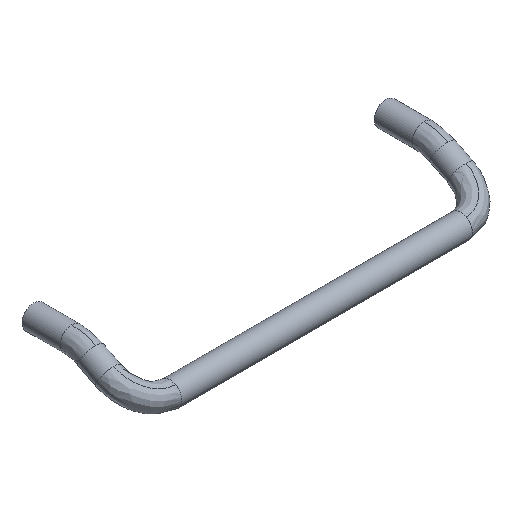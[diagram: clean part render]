
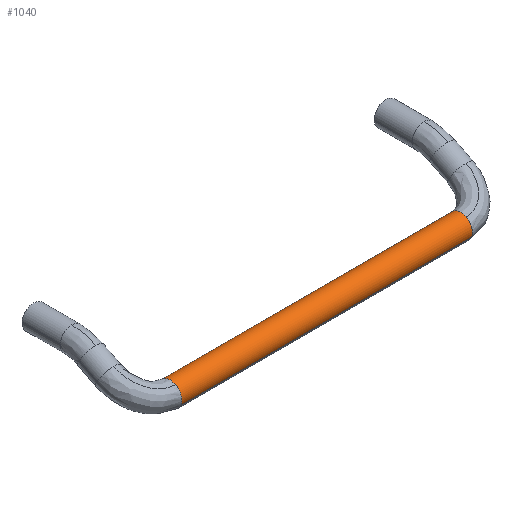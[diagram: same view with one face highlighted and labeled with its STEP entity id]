
A CAD part, isometric view. The second image highlights one B-rep face of the part: STEP entity #1040.
In plain terms, the highlighted free-form (B-spline) face has degree [2, 1] with [5, 2] control points.
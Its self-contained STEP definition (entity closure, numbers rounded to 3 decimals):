
#752=CARTESIAN_POINT('',(49.5,-1.815,3.565));
#753=VERTEX_POINT('',#752);
#765=CARTESIAN_POINT('',(49.5,-3.696,-1.529));
#766=VERTEX_POINT('',#765);
#767=CARTESIAN_POINT('',(49.5,-1.815,3.565));
#768=CARTESIAN_POINT('',(49.5,-2.748,3.089));
#769=CARTESIAN_POINT('',(49.5,-3.48,2.233));
#770=CARTESIAN_POINT('',(49.5,-4.096,0.341));
#771=CARTESIAN_POINT('',(49.5,-4.053,-0.658));
#772=CARTESIAN_POINT('',(49.5,-3.696,-1.529));
#773=B_SPLINE_CURVE_WITH_KNOTS('',3,(#767,#768,#769,#770,#771,#772),.UNSPECIFIED.,.F.,.U.,(4,2,4),(0.5,0.625,0.737),.UNSPECIFIED.);
#774=EDGE_CURVE('',#753,#766,#773,.T.);
#894=CARTESIAN_POINT('',(49.5,3.696,1.529));
#895=VERTEX_POINT('',#894);
#905=CARTESIAN_POINT('',(49.5,3.696,1.529));
#906=CARTESIAN_POINT('',(49.5,3.656,1.626));
#907=CARTESIAN_POINT('',(49.5,3.612,1.722));
#908=CARTESIAN_POINT('',(49.5,3.09,2.748));
#909=CARTESIAN_POINT('',(49.5,2.233,3.48));
#910=CARTESIAN_POINT('',(49.5,0.241,4.128));
#911=CARTESIAN_POINT('',(49.5,-0.882,4.04));
#912=CARTESIAN_POINT('',(49.5,-1.815,3.565));
#913=B_SPLINE_CURVE_WITH_KNOTS('',3,(#905,#906,#907,#908,#909,#910,#911,#912),.UNSPECIFIED.,.F.,.U.,(4,2,2,4),(0.237,0.25,0.375,0.5),.UNSPECIFIED.);
#914=EDGE_CURVE('',#895,#753,#913,.T.);
#939=CARTESIAN_POINT('',(-49.5,3.696,1.53));
#940=VERTEX_POINT('',#939);
#954=CARTESIAN_POINT('',(49.5,3.696,1.529));
#955=CARTESIAN_POINT('',(-49.5,3.696,1.53));
#956=QUASI_UNIFORM_CURVE('',1,(#954,#955),.UNSPECIFIED.,.F.,.U.);
#957=EDGE_CURVE('',#895,#940,#956,.T.);
#961=CARTESIAN_POINT('',(-49.5,-3.696,-1.53));
#962=VERTEX_POINT('',#961);
#963=CARTESIAN_POINT('',(49.5,-3.696,-1.529));
#964=CARTESIAN_POINT('',(-49.5,-3.696,-1.53));
#965=QUASI_UNIFORM_CURVE('',1,(#963,#964),.UNSPECIFIED.,.F.,.U.);
#966=EDGE_CURVE('',#766,#962,#965,.T.);
#986=CARTESIAN_POINT('',(51.975,-3.696,-1.53));
#987=CARTESIAN_POINT('',(51.975,-5.226,2.166));
#988=CARTESIAN_POINT('',(51.975,-1.53,3.696));
#989=CARTESIAN_POINT('',(51.975,2.166,5.226));
#990=CARTESIAN_POINT('',(51.975,3.696,1.53));
#991=CARTESIAN_POINT('',(-52.037,-3.696,-1.53));
#992=CARTESIAN_POINT('',(-52.037,-5.226,2.166));
#993=CARTESIAN_POINT('',(-52.037,-1.53,3.696));
#994=CARTESIAN_POINT('',(-52.037,2.166,5.226));
#995=CARTESIAN_POINT('',(-52.037,3.696,1.53));
#1003=(BOUNDED_SURFACE()B_SPLINE_SURFACE(2,1,((#986,#991),(#987,#992),(#988,#993),(#989,#994),(#990,#995)),.UNSPECIFIED.,.F.,.F.,.U.)B_SPLINE_SURFACE_WITH_KNOTS((3,2,3),(2,2),(0.0,6.627,13.255),(0.0,104.012),.UNSPECIFIED.)GEOMETRIC_REPRESENTATION_ITEM()RATIONAL_B_SPLINE_SURFACE(((1.0,1.0),(0.707,0.707),(1.0,1.0),(0.707,0.707),(1.0,1.0)))REPRESENTATION_ITEM('')SURFACE());
#1004=CARTESIAN_POINT('',(-49.5,-1.815,3.565));
#1005=VERTEX_POINT('',#1004);
#1006=CARTESIAN_POINT('',(-49.5,3.696,1.53));
#1007=CARTESIAN_POINT('',(-49.5,3.656,1.626));
#1008=CARTESIAN_POINT('',(-49.5,3.612,1.722));
#1009=CARTESIAN_POINT('',(-49.5,3.327,2.281));
#1010=CARTESIAN_POINT('',(-49.5,2.997,2.701));
#1011=CARTESIAN_POINT('',(-49.5,2.201,3.381));
#1012=CARTESIAN_POINT('',(-49.5,1.735,3.642));
#1013=CARTESIAN_POINT('',(-49.5,0.739,3.966));
#1014=CARTESIAN_POINT('',(-49.5,0.209,4.029));
#1015=CARTESIAN_POINT('',(-49.5,-0.835,3.947));
#1016=CARTESIAN_POINT('',(-49.5,-1.348,3.802));
#1017=CARTESIAN_POINT('',(-49.5,-1.815,3.565));
#1018=B_SPLINE_CURVE_WITH_KNOTS('',3,(#1006,#1007,#1008,#1009,#1010,#1011,#1012,#1013,#1014,#1015,#1016,#1017),.UNSPECIFIED.,.F.,.U.,(4,2,2,2,2,4),(0.237,0.25,0.313,0.375,0.438,0.5),.UNSPECIFIED.);
#1019=EDGE_CURVE('',#940,#1005,#1018,.T.);
#1020=ORIENTED_EDGE('',*,*,#1019,.T.);
#1021=CARTESIAN_POINT('',(-49.5,-1.815,3.565));
#1022=CARTESIAN_POINT('',(-49.5,-2.281,3.327));
#1023=CARTESIAN_POINT('',(-49.5,-2.701,2.997));
#1024=CARTESIAN_POINT('',(-49.5,-3.381,2.201));
#1025=CARTESIAN_POINT('',(-49.5,-3.642,1.735));
#1026=CARTESIAN_POINT('',(-49.5,-3.966,0.739));
#1027=CARTESIAN_POINT('',(-49.5,-4.029,0.209));
#1028=CARTESIAN_POINT('',(-49.5,-3.955,-0.73));
#1029=CARTESIAN_POINT('',(-49.5,-3.856,-1.142));
#1030=CARTESIAN_POINT('',(-49.5,-3.696,-1.53));
#1031=B_SPLINE_CURVE_WITH_KNOTS('',3,(#1021,#1022,#1023,#1024,#1025,#1026,#1027,#1028,#1029,#1030),.UNSPECIFIED.,.F.,.U.,(4,2,2,2,4),(0.5,0.563,0.625,0.688,0.737),.UNSPECIFIED.);
#1032=EDGE_CURVE('',#1005,#962,#1031,.T.);
#1033=ORIENTED_EDGE('',*,*,#1032,.T.);
#1034=ORIENTED_EDGE('',*,*,#966,.F.);
#1035=ORIENTED_EDGE('',*,*,#774,.F.);
#1036=ORIENTED_EDGE('',*,*,#914,.F.);
#1037=ORIENTED_EDGE('',*,*,#957,.T.);
#1038=EDGE_LOOP('',(#1020,#1033,#1034,#1035,#1036,#1037));
#1039=FACE_OUTER_BOUND('',#1038,.T.);
#1040=ADVANCED_FACE('',(#1039),#1003,.T.);
